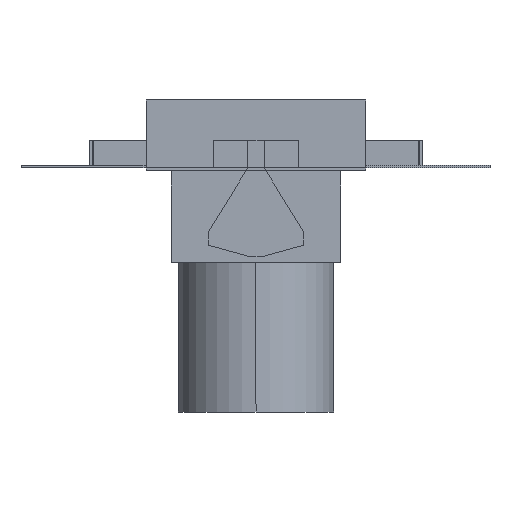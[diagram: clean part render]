
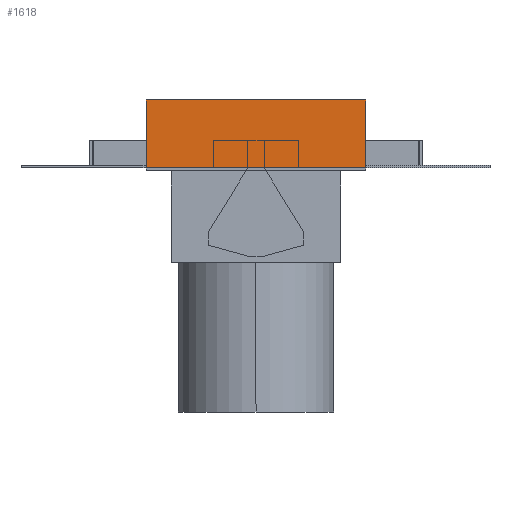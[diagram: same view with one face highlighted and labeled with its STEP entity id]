
A CAD part, left-side view. The second image highlights one B-rep face of the part: STEP entity #1618.
In plain terms, the highlighted planar face has unit normal (-1, 0, 0).
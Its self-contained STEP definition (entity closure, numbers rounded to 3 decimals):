
#128=FACE_OUTER_BOUND('',#227,.T.);
#227=EDGE_LOOP('',(#1378,#1379,#1380,#1381));
#421=LINE('',#2568,#630);
#423=LINE('',#2572,#632);
#424=LINE('',#2574,#633);
#425=LINE('',#2575,#634);
#630=VECTOR('',#2117,304.8);
#632=VECTOR('',#2121,304.8);
#633=VECTOR('',#2122,304.8);
#634=VECTOR('',#2123,304.8);
#783=VERTEX_POINT('',#2565);
#784=VERTEX_POINT('',#2567);
#785=VERTEX_POINT('',#2571);
#786=VERTEX_POINT('',#2573);
#985=EDGE_CURVE('',#784,#783,#421,.T.);
#987=EDGE_CURVE('',#785,#783,#423,.T.);
#988=EDGE_CURVE('',#786,#785,#424,.T.);
#989=EDGE_CURVE('',#784,#786,#425,.T.);
#1378=ORIENTED_EDGE('',*,*,#987,.F.);
#1379=ORIENTED_EDGE('',*,*,#988,.F.);
#1380=ORIENTED_EDGE('',*,*,#989,.F.);
#1381=ORIENTED_EDGE('',*,*,#985,.T.);
#1521=PLANE('',#1751);
#1618=ADVANCED_FACE('',(#128),#1521,.T.);
#1751=AXIS2_PLACEMENT_3D('',#2570,#2119,#2120);
#2117=DIRECTION('',(0.,0.,1.));
#2119=DIRECTION('center_axis',(-1.,0.,0.));
#2120=DIRECTION('ref_axis',(0.,0.,-1.));
#2121=DIRECTION('',(0.,-1.,0.));
#2122=DIRECTION('',(0.,0.,1.));
#2123=DIRECTION('',(0.,1.,0.));
#2565=CARTESIAN_POINT('',(-1000.,-81.,30.));
#2567=CARTESIAN_POINT('',(-1000.,-81.,-20.));
#2568=CARTESIAN_POINT('',(-1000.,-81.,-20.));
#2570=CARTESIAN_POINT('Origin',(-1000.,81.,30.));
#2571=CARTESIAN_POINT('',(-1000.,81.,30.));
#2572=CARTESIAN_POINT('',(-1000.,81.,30.));
#2573=CARTESIAN_POINT('',(-1000.,81.,-20.));
#2574=CARTESIAN_POINT('',(-1000.,81.,-20.));
#2575=CARTESIAN_POINT('',(-1000.,-81.,-20.));
